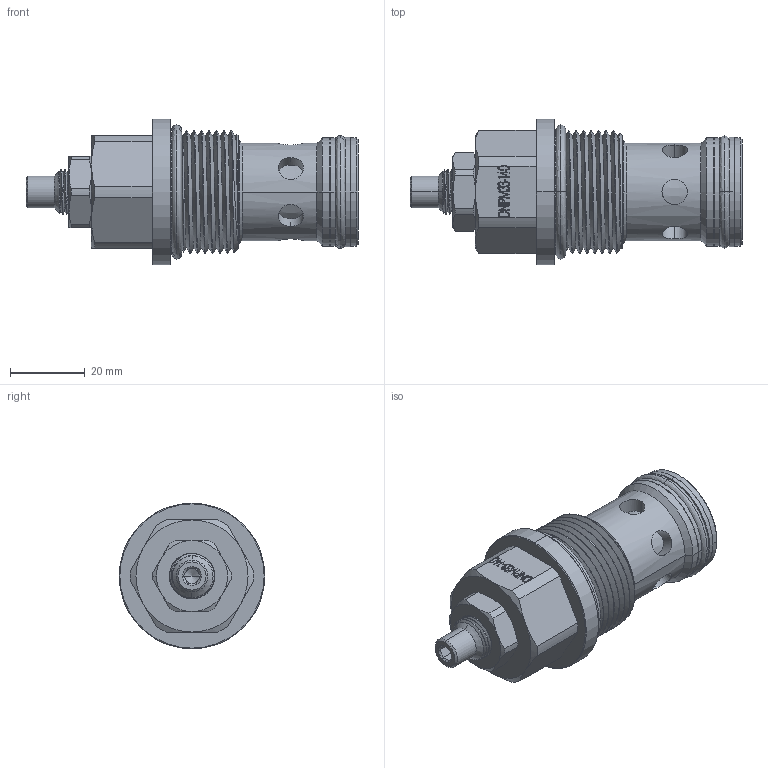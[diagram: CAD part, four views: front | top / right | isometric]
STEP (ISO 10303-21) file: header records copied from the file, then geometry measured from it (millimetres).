
FILE_DESCRIPTION (( 'STEP AP214' ), '1' );
FILE_NAME ('DNIPM33.STEP', '2017-03-14T12:34:44', ( '' ), ( '' ), 'SwSTEP 2.0', 'SolidWorks 2016', '' );
FILE_SCHEMA (( 'AUTOMOTIVE_DESIGN' ));
Length unit declared in the file: millimetre
Products named in the file (1): DNIPM33
Bounding box: 88.8 x 39 x 39 mm (x, y, z)
Volume: 51837.6 mm3; surface area: 15102 mm2
Topology: 3 solids, 3 shells, 326 faces, 819 edges, 525 vertices
Faces by surface type: plane 125, cylinder 74, cone 64, bspline 63
Entity records: 18232 total; most frequent: CARTESIAN_POINT 7529, ORIENTED_EDGE 1630, DIRECTION 1251, EDGE_CURVE 815, VERTEX_POINT 525, AXIS2_PLACEMENT_3D 419, LINE 413, VECTOR 413
